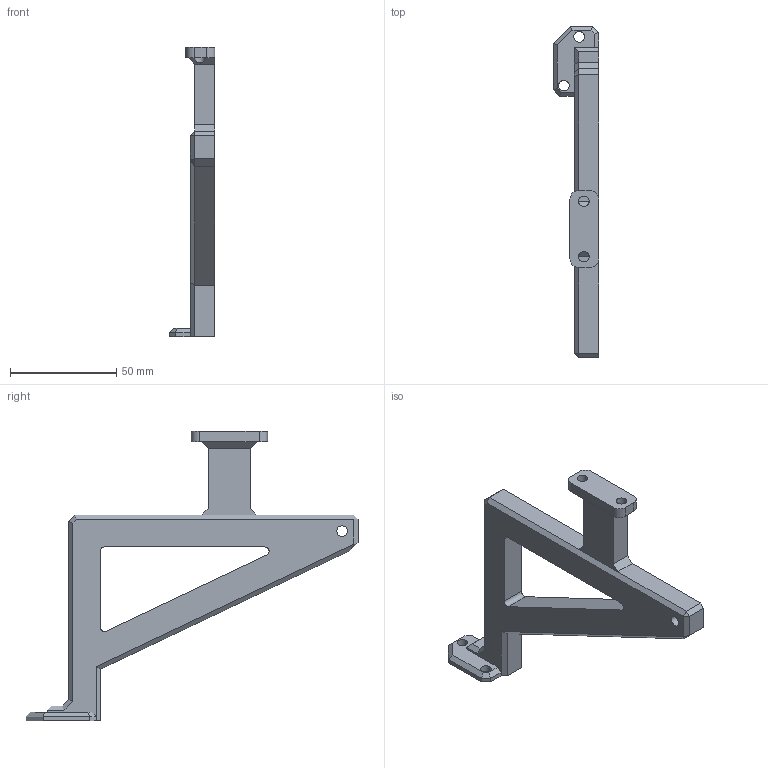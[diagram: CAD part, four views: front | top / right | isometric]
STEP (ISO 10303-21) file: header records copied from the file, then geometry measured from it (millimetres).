
FILE_DESCRIPTION(/* description */ ('STEP AP242 Edition 2','CAx-IF Rec.Pracs.---Representation and Presentation of Product Manufacturing Information (PMI)---4.0---2014-10-13','CAx-IF Rec.Pracs.---3D Tessellated Geometry---0.4---2014-09-14','2;1','CAx-IF Rec.Pracs.---User Defined Attributes---1.5---2016-08-15'),/* implementation_level */ '2;1');
FILE_NAME(/* name */ 'Part Studio 1 - Wheel Strut R',/* time_stamp */ '2026-04-09T20:19:24Z',/* author */ (''),/* organization */ (''),/* preprocessor_version */ 'ST-DEVELOPER v20',/* originating_system */ 'ONSHAPE BY PTC INC, 1.213',/* authorisation */ ' ');
FILE_SCHEMA (('AP242_MANAGED_MODEL_BASED_3D_ENGINEERING_MIM_LF { 1 0 10303 442 3 1 4 }'));
Length unit declared in the file: metre
Products named in the file (1): Wheel Strut R
Bounding box: 21.5 x 156.23 x 136.4 mm (x, y, z)
Volume: 67555.9 mm3; surface area: 21260.2 mm2
Topology: 1 solids, 1 shells, 70 faces, 182 edges, 113 vertices
Faces by surface type: plane 57, cylinder 13
Full cylindrical faces by diameter (mm): 5 x6
Entity records: 2110 total; most frequent: CARTESIAN_POINT 360, ORIENTED_EDGE 352, DIRECTION 346, EDGE_CURVE 176, LINE 148, VECTOR 148, VERTEX_POINT 113, AXIS2_PLACEMENT_3D 99
